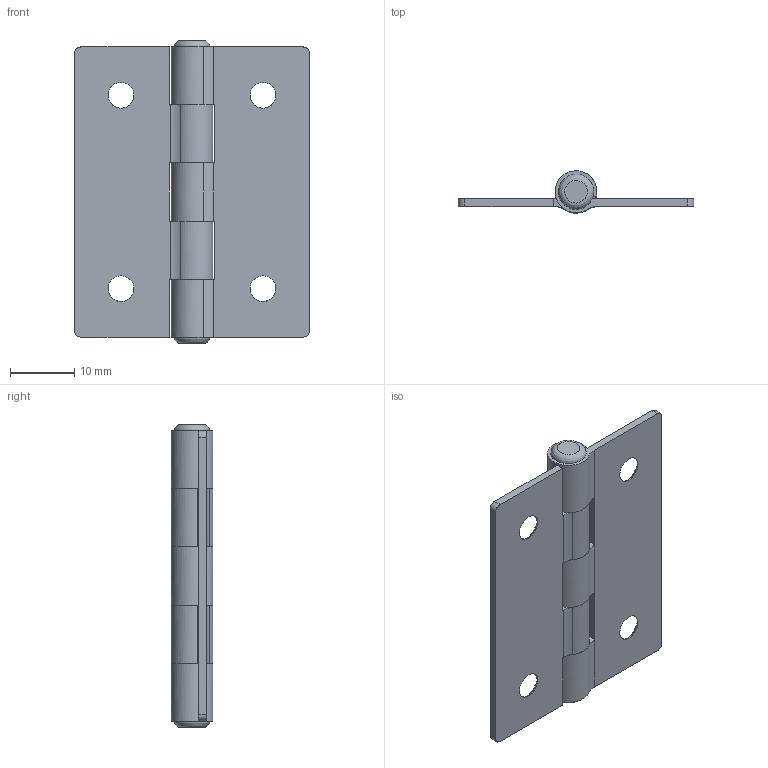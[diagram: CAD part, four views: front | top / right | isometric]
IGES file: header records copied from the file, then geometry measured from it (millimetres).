
Global section: file name: DR_HD4536-12; native system: Autodesk Inventor 2015; preprocessor: unknown; author: user; date: 20170810.160937; units: millimetre
Bounding box: 36.5 x 6.5 x 47 mm (x, y, z)
Volume: 3043.2 mm3; surface area: 5263.4 mm2
Topology: 3 solids, 3 shells, 67 faces, 187 edges, 128 vertices
Faces by surface type: bspline 67
